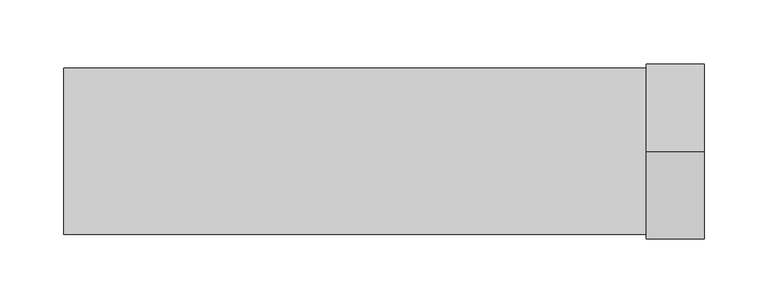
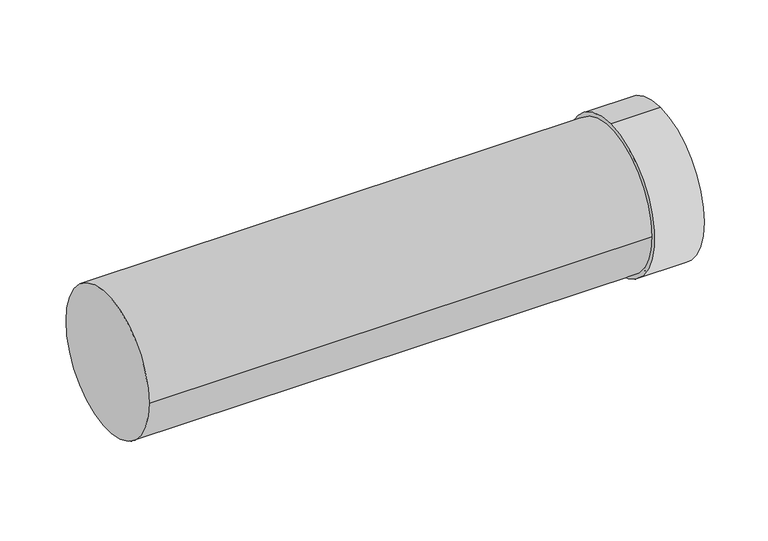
"""IFC4 building model written with IfcOpenShell, lengths in millimetres: duct fitting geometry, RSFen_DUF_UN_Twinline Extension_M&G : ø130-150-200."""

from ifc_helpers import new_model, si_unit, point, frame, origin, origin_2d, place, context, project, spatial, polyline, circle_curve, trimmed, segment, composite_curve, outline, extrude, source, transform, mapped, element, save
from ifc_brep_helpers import plane_surface, cylinder_surface, revolved_surface, advanced_brep


def duct_fitting_58c5740b(model_context):
    return source(origin(), model_context, "Body", "SolidModel", [
        advanced_brep(
        [(500.0, 0.0, -68.5), (500.0, 0.0, 68.5), (500.0, 0.0, 65.5), (500.0, 0.0, -65.5), (455.0, 0.0, -68.5), (455.0, 0.0, 68.5), (460.0, 0.0, -65.5), (460.0, 0.0, 65.5)],
        [
            (0, 1, circle_curve(frame((500.0, 0.0, 0.0), z_axis=(1.0, 0.0, 0.0), x_axis=(0.0, 0.0, 1.0)), 68.5)),
            (1, 0, circle_curve(frame((500.0, 0.0, 0.0), z_axis=(1.0, 0.0, 0.0), x_axis=(0.0, 0.0, 1.0)), 68.5)),
            (2, 3, circle_curve(frame((500.0, 0.0, 0.0), z_axis=(-1.0, 0.0, 0.0), x_axis=(0.0, 0.0, 1.0)), 65.5)),
            (3, 2, circle_curve(frame((500.0, 0.0, 0.0), z_axis=(-1.0, 0.0, 0.0), x_axis=(0.0, 0.0, 1.0)), 65.5)),
            (4, 5, circle_curve(frame((455.0, 0.0, 0.0), z_axis=(-1.0, 0.0, 0.0), x_axis=(0.0, 0.0, 1.0)), 68.5)),
            (5, 4, circle_curve(frame((455.0, 0.0, 0.0), z_axis=(-1.0, 0.0, 0.0), x_axis=(0.0, 0.0, 1.0)), 68.5)),
            (0, 4),
            (5, 1),
            (6, 7, circle_curve(frame((460.0, 0.0, 0.0), z_axis=(1.0, 0.0, 0.0), x_axis=(0.0, 0.0, 1.0)), 65.5)),
            (7, 6, circle_curve(frame((460.0, 0.0, 0.0), z_axis=(1.0, 0.0, 0.0), x_axis=(0.0, 0.0, 1.0)), 65.5)),
            (6, 3),
            (2, 7),
        ],
        [
            plane_surface(frame((500.0, 0.0, 68.5), z_axis=(1.0, 0.0, 0.0), x_axis=(0.0, -1.0, 0.0))),
            plane_surface(frame((455.0, 0.0, 68.5), z_axis=(-1.0, 0.0, 0.0), x_axis=(0.0, 1.0, 0.0))),
            cylinder_surface(frame((455.0, 0.0, 0.0), z_axis=(1.0, 0.0, 0.0), x_axis=(0.0, 0.0, 1.0)), 68.5),
            plane_surface(frame((460.0, 0.0, 65.5), z_axis=(1.0, 0.0, 0.0), x_axis=(0.0, 1.0, 0.0))),
            revolved_surface(polyline([(500.0, 0.0, 65.5), (460.0, 0.0, 65.5)]), (460.0, 0.0, 0.0), (1.0, 0.0, 0.0)),
        ],
        [
            (0, [[1, 2], [3, 4]]),
            (1, [[5, 6]]),
            (2, [[-1, 7, -6, 8]]),
            (2, [[-2, -8, -5, -7]]),
            (3, [[9, 10]]),
            (4, [[-9, 11, -3, 12]]),
            (4, [[-10, -12, -4, -11]]),
        ],
    ),
        extrude(outline(composite_curve([segment(trimmed(circle_curve(origin_2d(), 65.0), [point((65.0, 0.0))], [point((-65.0, 0.0))], False, "CARTESIAN"), True, "CONTINUOUS"), segment(trimmed(circle_curve(origin_2d(), 65.0), [point((-65.0, 0.0))], [point((65.0, 0.0))], False, "CARTESIAN"), True, "CONTINUOUS")], self_intersect=False)), frame((-2.39e-05, 0.0, 0.0), z_axis=(1.0, 0.0, 0.0), x_axis=(0.0, 1.0, 0.0)), (0.0, 0.0, 1.0), 460.0),
    ])


if __name__ == "__main__":
    model = new_model("IFC4")
    model_context = context("Model", 3, world=origin())
    ifc_project = project(units=[si_unit("LENGTHUNIT", "METRE", prefix="MILLI")], contexts=[model_context])
    site = spatial("IfcSite", under=ifc_project)
    building = spatial("IfcBuilding", under=site)
    placement = place(None, origin())
    duct_fitting_shape = duct_fitting_58c5740b(model_context)
    element("IfcDuctFitting", 1, ObjectType="RSFen_DUF_UN_Twinline Extension_M&G : ø130-150-200", at=placement, inside=building, context=model_context, shape_type="MappedRepresentation", body=[
        mapped(duct_fitting_shape, transform((0.0, 0.0, 0.0), x_axis=(1.0, 0.0, 0.0), y_axis=(0.0, 1.0, 0.0), z_axis=(0.0, 0.0, 1.0))),
    ])
    save(model, "model.ifc")
